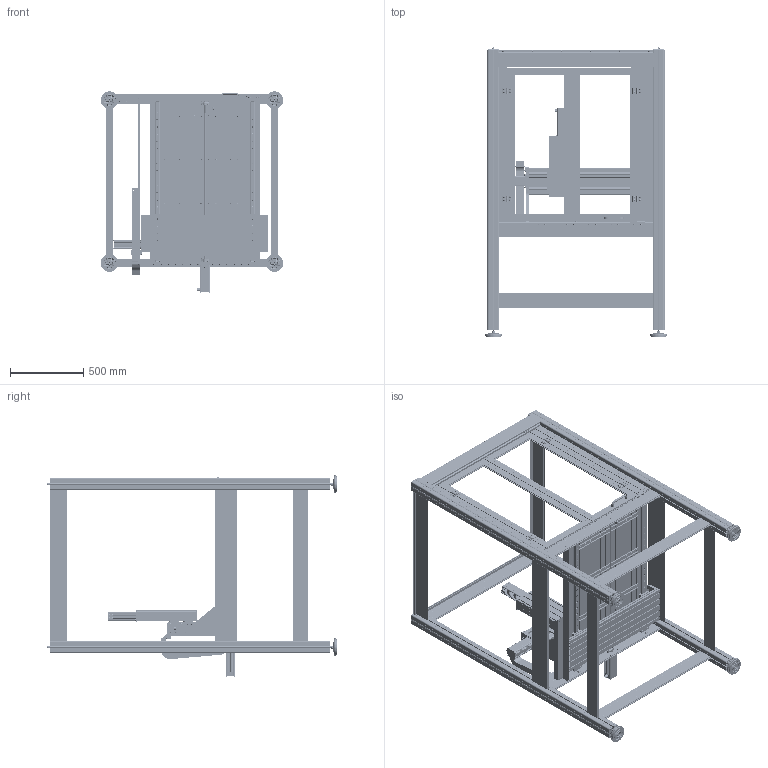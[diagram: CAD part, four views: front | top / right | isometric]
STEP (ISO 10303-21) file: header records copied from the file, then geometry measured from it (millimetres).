
FILE_DESCRIPTION (( 'STEP AP203' ), '1' );
FILE_NAME ('_-_X-Y-Z Flachbetteinheit FB2 - ArtNr 246203 2040M - ArtNr 248500 0040 - ArtNr 248200 2040 - ArtNr 230514 0400M.step', '2015-04-23T05:58:28', ( '' ), ( '' ), 'SwSTEP 2.0', 'SolidWorks 2014', '' );
FILE_SCHEMA (( 'CONFIG_CONTROL_DESIGN' ));
Products named in the file (8): _-_X-Y-Z Flachbetteinheit FB2 - ArtNr 246203 2040M - ArtNr 248500 0040 - ArtNr 248200 2040 - ArtNr 230514 0400M; X-Y-Achse f黵 Verfahrweg 530; TE0179 - F黨rungsschlitten_F乭rungsschlitten f乺 KG-Mutter Typ25; Z-Achse FB2 Hub 160mm; Untergestell 750x1100_f〉 Umhausung; Untergestell Baugruppe_750x1100 - f〉 Umhausung; Umhausung 750x1100; Umhausung Baugruppe_750x1100
Assembly tree (8 placements, depth 3):
  _-_X-Y-Z Flachbetteinheit FB2 - ArtNr 246203 2040M - ArtNr 248500 0040 - ArtNr 248200 2040 - ArtNr 230514 0400M
    X-Y-Achse f黵 Verfahrweg 530
    TE0179 - F黨rungsschlitten_F乭rungsschlitten f乺 KG-Mutter Typ25  x2
    Z-Achse FB2 Hub 160mm
    Untergestell Baugruppe_750x1100 - f〉 Umhausung
      Untergestell 750x1100_f〉 Umhausung
    Umhausung Baugruppe_750x1100
      Umhausung 750x1100
Bounding box: 1249.73 x 1989.05 x 1378.16 mm (x, y, z)
Volume: 57033500.8 mm3; surface area: 37672459.4 mm2
Topology: 592 solids, 592 shells, 21925 faces, 57939 edges, 37499 vertices
Faces by surface type: plane 13190, cylinder 6690, cone 1122, torus 724, sphere 194, bspline 5
Full cylindrical faces by diameter (mm): 1.5 x12, 2 x4, 2.33 x2, 2.4 x2, 2.5 x42, 3 x16, 3.2 x19, 3.3 x8, 3.7 x1, 4 x55, 4.2 x16, 4.3 x12, 4.5 x24, 4.6 x1, 4.8 x8, 4.819 x8, 5 x92, 5.2 x43, 5.5 x25, 6 x291, 6.1 x8, 6.35 x2, 6.4 x13, 6.5 x74, 6.6 x69, 7 x237, 7.2 x3, 7.5 x38, 8 x32, 8.4 x4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
Entity records: 691376 total; most frequent: CARTESIAN_POINT 174204, ORIENTED_EDGE 104636, DIRECTION 104164, EDGE_CURVE 52318, AXIS2_PLACEMENT_3D 36161, VERTEX_POINT 35751, LINE 31842, VECTOR 31842
